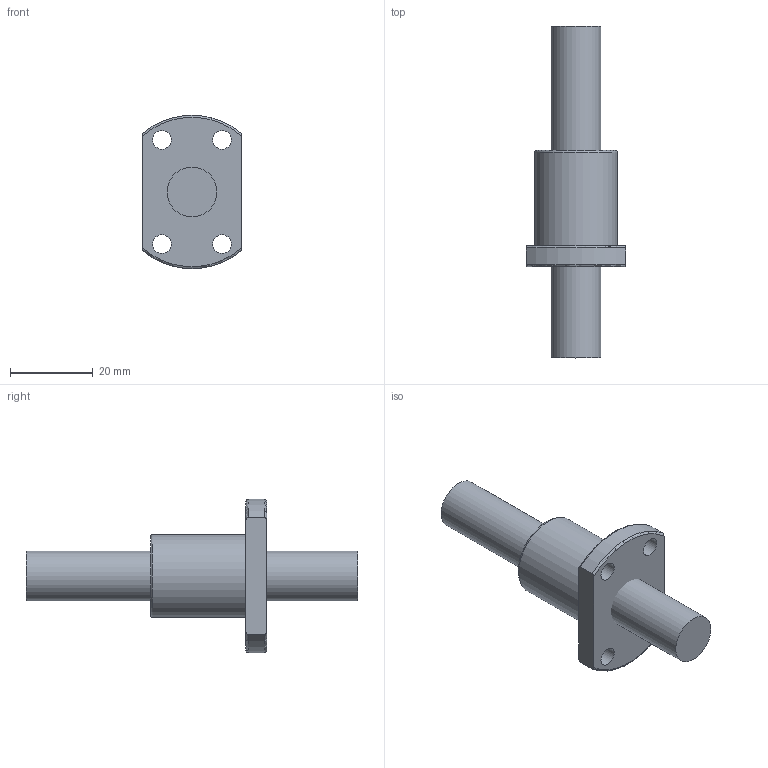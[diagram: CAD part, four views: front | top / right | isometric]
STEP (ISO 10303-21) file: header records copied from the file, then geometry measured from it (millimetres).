
FILE_DESCRIPTION(/* description */ (''),/* implementation_level */ '2;1');
FILE_NAME(/* name */ 'SFK01202.stp',/* time_stamp */ '2022-12-14T10:00:15+08:00',/* author */ (''),/* organization */ (''),/* preprocessor_version */ 'ST-DEVELOPER v16.7',/* originating_system */ 'SIEMENS PLM Software NX 1892',/* authorisation */ '');
FILE_SCHEMA (('AUTOMOTIVE_DESIGN { 1 0 10303 214 3 1 1 1 }'));
Length unit declared in the file: millimetre
Products named in the file (1): 031623C0FC89uv8g
Bounding box: 24 x 80 x 36.89 mm (x, y, z)
Volume: 20051.7 mm3; surface area: 6991.1 mm2
Topology: 2 solids, 2 shells, 20 faces, 48 edges, 33 vertices
Faces by surface type: cylinder 8, plane 7, torus 5
Full cylindrical faces by diameter (mm): 4.5 x4, 12 x1, 20 x1
Entity records: 683 total; most frequent: CARTESIAN_POINT 207, DIRECTION 92, ORIENTED_EDGE 74, AXIS2_PLACEMENT_3D 42, EDGE_CURVE 37, EDGE_LOOP 36, VERTEX_POINT 29, FACE_BOUND 25
